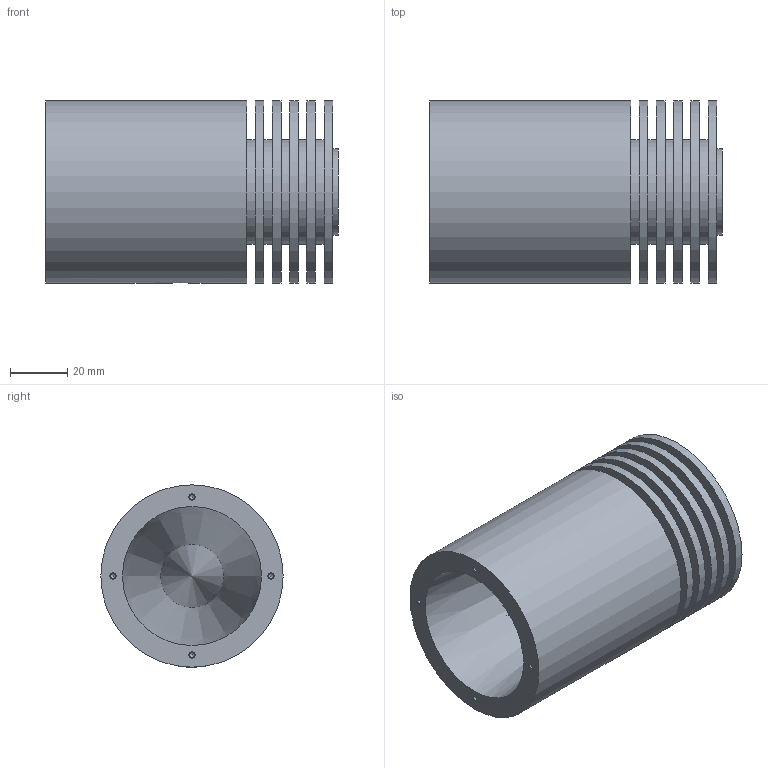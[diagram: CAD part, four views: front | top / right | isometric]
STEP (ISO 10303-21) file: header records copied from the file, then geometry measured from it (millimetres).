
FILE_DESCRIPTION(/* description */ (''),/* implementation_level */ '2;1');
FILE_NAME(/* name */ 'U:\KONSTRUKTORIAI\! ! ! BENDRAS ! ! !\Darius\Darius\Schemos\10\10BD01\step\10BD01.stp',/* time_stamp */ '2016-01-08T11:21:49+02:00',/* author */ ('dsgn33'),/* organization */ (''),/* preprocessor_version */ 'ST-DEVELOPER v15.2',/* originating_system */ 'Autodesk Inventor 2014',/* authorisation */ '');
FILE_SCHEMA (('AUTOMOTIVE_DESIGN { 1 0 10303 214 3 1 1 }'));
Length unit declared in the file: millimetre
Products named in the file (2): Part2; Assembly1
Bounding box: 102 x 63.5 x 63.5 mm (x, y, z)
Volume: 200116.1 mm3; surface area: 58078.5 mm2
Topology: 1 solids, 1 shells, 47 faces, 89 edges, 56 vertices
Faces by surface type: cylinder 19, plane 16, cone 11, bspline 1
Full cylindrical faces by diameter (mm): 1.567 x4, 4.917 x1, 30 x1, 36.501 x5, 63.5 x6
Entity records: 1128 total; most frequent: CARTESIAN_POINT 267, DIRECTION 192, ORIENTED_EDGE 108, AXIS2_PLACEMENT_3D 92, EDGE_LOOP 87, EDGE_CURVE 54, VERTEX_POINT 49, FACE_BOUND 48
